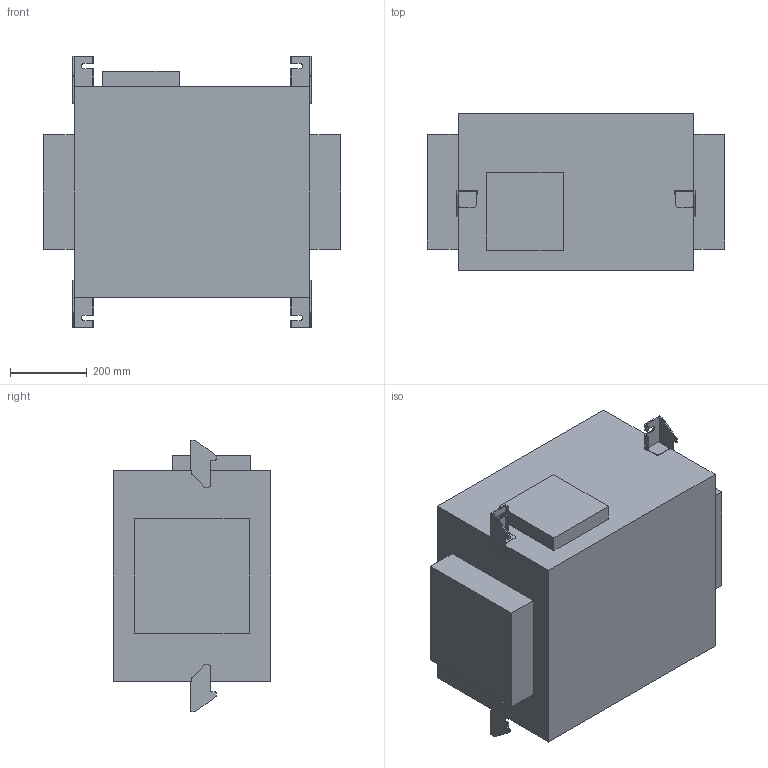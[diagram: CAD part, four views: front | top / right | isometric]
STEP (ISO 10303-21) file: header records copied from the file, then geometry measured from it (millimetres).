
FILE_DESCRIPTION (( 'STEP AP203' ), '1' );
FILE_NAME ('BIS-301標準用モックアップデータ.STEP', '2021-12-01T02:48:04', ( '' ), ( '' ), 'SwSTEP 2.0', 'SolidWorks 2020', '' );
FILE_SCHEMA (( 'CONFIG_CONTROL_DESIGN' ));
Length unit declared in the file: millimetre
Products named in the file (1): BIS-301標準用モックアップデータ
Bounding box: 772 x 409 x 705.6 mm (x, y, z)
Volume: 152662530.5 mm3; surface area: 1908303.1 mm2
Topology: 1 solids, 1 shells, 181 faces, 520 edges, 340 vertices
Faces by surface type: plane 125, cylinder 56
Entity records: 5979 total; most frequent: CARTESIAN_POINT 1042, ORIENTED_EDGE 1040, DIRECTION 996, EDGE_CURVE 520, VECTOR 408, LINE 408, VERTEX_POINT 340, AXIS2_PLACEMENT_3D 294
